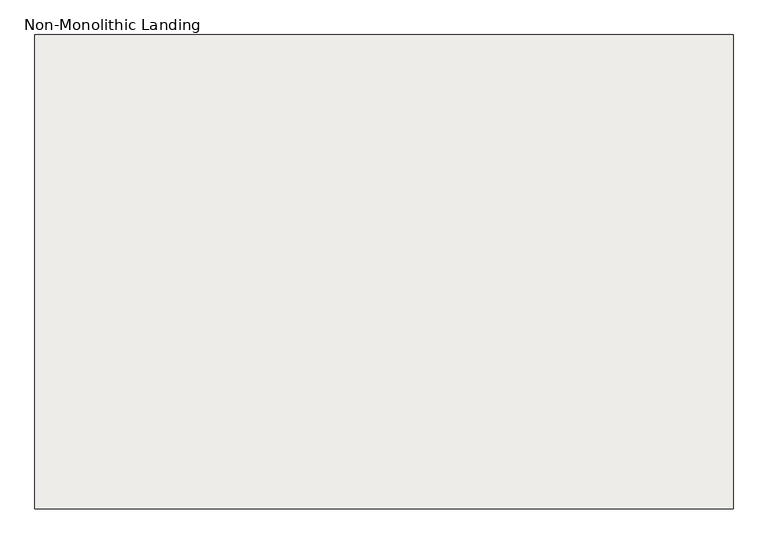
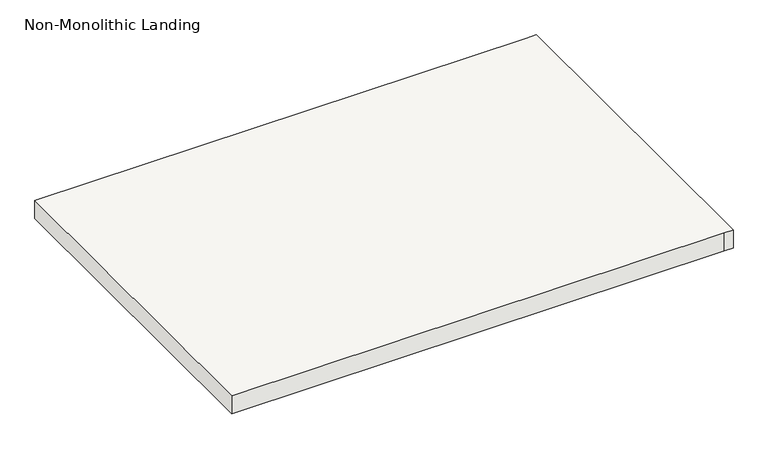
"""IFC4 building model written with IfcOpenShell, lengths in millimetres: slab geometry, Non-Monolithic Landing."""

from ifc_helpers import new_model, si_unit, frame, origin, place, context, project, spatial, polyline, outline, extrude, source, transform, mapped, element, save


def non_monolithic_landing_2f4b5426(model_context):
    return source(origin(), model_context, "Body", "SweptSolid", [
        extrude(outline(polyline([(-47125.9118252, 24379.0076385), (-45805.1118252, 24379.0076385), (-45779.7118252, 24379.0076385), (-45779.7118252, 23464.6076385), (-45805.1118252, 23464.6076385), (-47125.9118252, 23464.6076385), (-47125.9118252, 24379.0076385)])), frame((0.0, 0.0, 2126.3428571), z_axis=(0.0, 0.0, 1.0), x_axis=(1.0, 0.0, 0.0)), (0.0, 0.0, 1.0), 50.8),
    ])


if __name__ == "__main__":
    model = new_model("IFC4")
    model_context = context("Model", 3, world=origin())
    ifc_project = project(units=[si_unit("LENGTHUNIT", "METRE", prefix="MILLI")], contexts=[model_context])
    site = spatial("IfcSite", under=ifc_project)
    building = spatial("IfcBuilding", under=site)
    placement = place(None, origin())
    non_monolithic_landing_shape = non_monolithic_landing_2f4b5426(model_context)
    element("IfcSlab", 1, ObjectType="Non-Monolithic Landing", at=placement, inside=building, context=model_context, shape_type="MappedRepresentation", body=[
        mapped(non_monolithic_landing_shape, transform((0.0, 0.0, 0.0), x_axis=(1.0, 0.0, 0.0), y_axis=(0.0, 1.0, 0.0), z_axis=(0.0, 0.0, 1.0))),
    ])
    save(model, "model.ifc")
